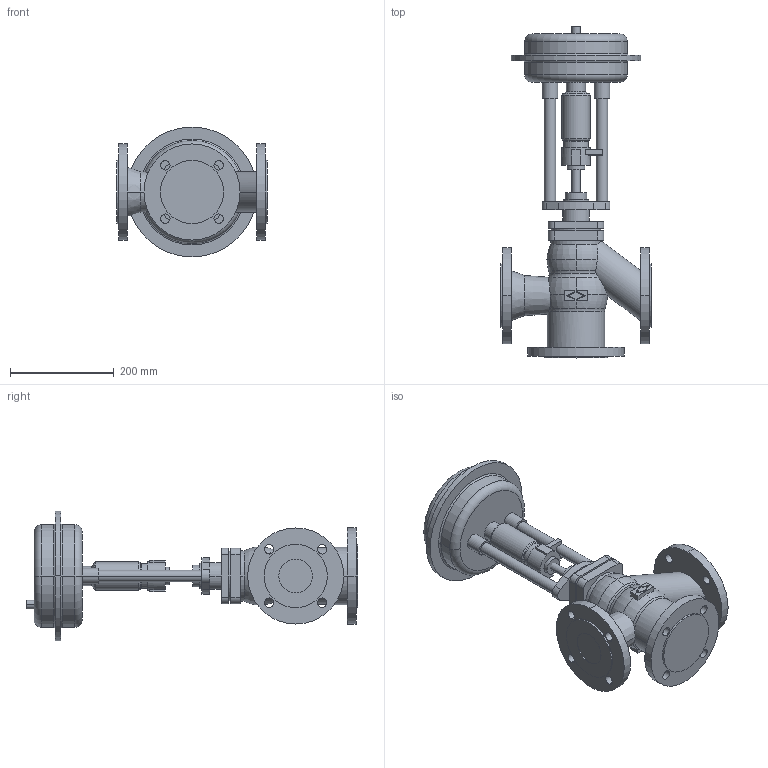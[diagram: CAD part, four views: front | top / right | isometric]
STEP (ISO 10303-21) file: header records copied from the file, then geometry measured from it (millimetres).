
FILE_DESCRIPTION(('OneSpaceDesigner STEP Export'),'2;1');
FILE_NAME('c000000407.stp','2006-09-13T12:33:21',(''),(''),'OneSpace Designer STEP processor for AP214 (Solid Model)','OneSpace Designer 13.20A 18-Aug-2005 (C) CoCreate Software GmbH','');
FILE_SCHEMA(('AUTOMOTIVE_DESIGN { 1 0 10303 214 1 1 1 1 }'));
Length unit declared in the file: millimetre
Products named in the file (2): 1; 2
Bounding box: 290 x 639.5 x 250 mm (x, y, z)
Volume: 8368188.9 mm3; surface area: 561132.4 mm2
Topology: 2 solids, 2 shells, 217 faces, 533 edges, 348 vertices
Faces by surface type: cylinder 94, plane 81, torus 34, cone 8
Entity records: 5759 total; most frequent: CARTESIAN_POINT 1100, ORIENTED_EDGE 1066, DIRECTION 836, EDGE_CURVE 533, VERTEX_POINT 348, AXIS2_PLACEMENT_3D 308, EDGE_LOOP 269, VECTOR 220
